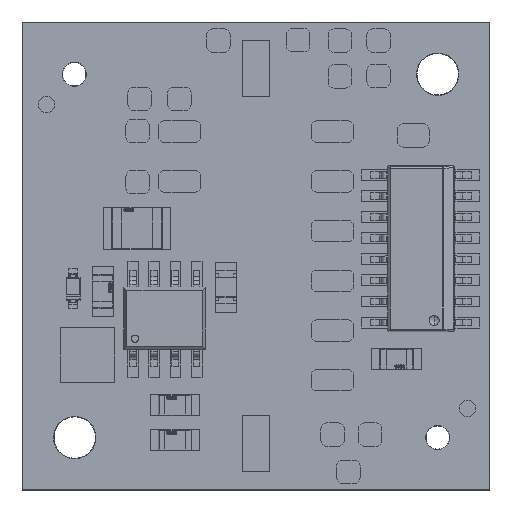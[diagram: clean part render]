
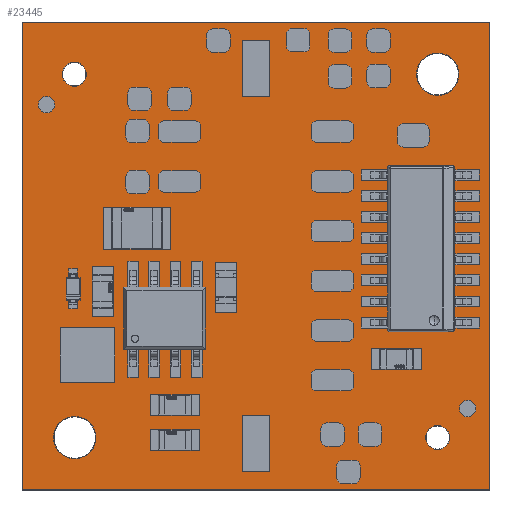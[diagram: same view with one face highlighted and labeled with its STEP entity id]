
A CAD part, top view. The second image highlights one B-rep face of the part: STEP entity #23445.
In plain terms, the highlighted planar face has unit normal (0, 0, 1).
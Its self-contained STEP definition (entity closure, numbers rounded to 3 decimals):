
#212 = CARTESIAN_POINT ( 'NONE',  ( -17.15, -18.9, -0.035 ) ) ;
#542 = DIRECTION ( 'NONE',  ( -1., 0., 0. ) ) ;
#800 = DIRECTION ( 'NONE',  ( 0., 0., 1. ) ) ;
#1283 = CIRCLE ( 'NONE', #120736, 0.7 ) ;
#1812 = ORIENTED_EDGE ( 'NONE', *, *, #23322, .F. ) ;
#4898 = CIRCLE ( 'NONE', #128750, 0.7 ) ;
#7318 = VECTOR ( 'NONE', #13864, 1000. ) ;
#8058 = EDGE_CURVE ( 'NONE', #126413, #99872, #39768, .T. ) ;
#9564 = EDGE_CURVE ( 'NONE', #56489, #25338, #1283, .T. ) ;
#10687 = AXIS2_PLACEMENT_3D ( 'NONE', #45654, #88685, #143337 ) ;
#10869 = DIRECTION ( 'NONE',  ( 1., 0., 0. ) ) ;
#10957 = ORIENTED_EDGE ( 'NONE', *, *, #30989, .F. ) ;
#11121 = CARTESIAN_POINT ( 'NONE',  ( -10.922, -10.942, -0.035 ) ) ;
#12557 = DIRECTION ( 'NONE',  ( 0., 0., 1. ) ) ;
#13864 = DIRECTION ( 'NONE',  ( 0., -1., 0. ) ) ;
#14793 = VERTEX_POINT ( 'NONE', #53101 ) ;
#17605 = ORIENTED_EDGE ( 'NONE', *, *, #117866, .F. ) ;
#18101 = DIRECTION ( 'NONE',  ( 0., 1., 0. ) ) ;
#19159 = VERTEX_POINT ( 'NONE', #143407 ) ;
#21432 = DIRECTION ( 'NONE',  ( -1., 0., 0. ) ) ;
#23322 = EDGE_CURVE ( 'NONE', #73507, #87204, #127516, .T. ) ;
#23389 = EDGE_LOOP ( 'NONE', ( #94567, #10957 ) ) ;
#23445 = ADVANCED_FACE ( 'NONE', ( #113667, #58305, #110218, #51351, #94647 ), #66938, .F. ) ;
#24362 = AXIS2_PLACEMENT_3D ( 'NONE', #212, #100763, #21432 ) ;
#25324 = CIRCLE ( 'NONE', #59257, 1.25 ) ;
#25338 = VERTEX_POINT ( 'NONE', #142931 ) ;
#27344 = ORIENTED_EDGE ( 'NONE', *, *, #121868, .T. ) ;
#27898 = CIRCLE ( 'NONE', #90052, 0.7 ) ;
#29272 = CARTESIAN_POINT ( 'NONE',  ( 10.947, -10.942, -0.035 ) ) ;
#30989 = EDGE_CURVE ( 'NONE', #14793, #19159, #112385, .T. ) ;
#32521 = DIRECTION ( 'NONE',  ( -1., 0., 0. ) ) ;
#33783 = CARTESIAN_POINT ( 'NONE',  ( 10.247, -10.942, -0.035 ) ) ;
#39768 = LINE ( 'NONE', #136706, #114198 ) ;
#43586 = VERTEX_POINT ( 'NONE', #118851 ) ;
#45142 = AXIS2_PLACEMENT_3D ( 'NONE', #112249, #12557, #79367 ) ;
#45654 = CARTESIAN_POINT ( 'NONE',  ( 10.947, 10.952, -0.035 ) ) ;
#47085 = ORIENTED_EDGE ( 'NONE', *, *, #71960, .F. ) ;
#48042 = CARTESIAN_POINT ( 'NONE',  ( 10.947, 10.952, -0.035 ) ) ;
#51351 = FACE_BOUND ( 'NONE', #97865, .T. ) ;
#51526 = DIRECTION ( 'NONE',  ( -1., 0., 0. ) ) ;
#51719 = EDGE_CURVE ( 'NONE', #43586, #131895, #61090, .T. ) ;
#53101 = CARTESIAN_POINT ( 'NONE',  ( -12.172, -10.942, -0.035 ) ) ;
#54902 = AXIS2_PLACEMENT_3D ( 'NONE', #88299, #800, #100392 ) ;
#55246 = DIRECTION ( 'NONE',  ( 0., 0., 1. ) ) ;
#56489 = VERTEX_POINT ( 'NONE', #33783 ) ;
#58305 = FACE_BOUND ( 'NONE', #111757, .T. ) ;
#59257 = AXIS2_PLACEMENT_3D ( 'NONE', #48042, #69825, #70318 ) ;
#61090 = CIRCLE ( 'NONE', #10687, 1.25 ) ;
#66938 = PLANE ( 'NONE',  #24362 ) ;
#67498 = CARTESIAN_POINT ( 'NONE',  ( 14.1, -14.1, -0.035 ) ) ;
#67965 = ORIENTED_EDGE ( 'NONE', *, *, #51719, .F. ) ;
#69825 = DIRECTION ( 'NONE',  ( 0., 0., 1. ) ) ;
#70069 = CIRCLE ( 'NONE', #141812, 1.25 ) ;
#70318 = DIRECTION ( 'NONE',  ( -1., 0., 0. ) ) ;
#71960 = EDGE_CURVE ( 'NONE', #131895, #43586, #25324, .T. ) ;
#72195 = CARTESIAN_POINT ( 'NONE',  ( -10.947, 10.952, -0.035 ) ) ;
#72512 = EDGE_LOOP ( 'NONE', ( #27344, #73904, #83870, #76229 ) ) ;
#73507 = VERTEX_POINT ( 'NONE', #134000 ) ;
#73904 = ORIENTED_EDGE ( 'NONE', *, *, #140491, .T. ) ;
#74040 = EDGE_CURVE ( 'NONE', #19159, #14793, #70069, .T. ) ;
#74250 = VERTEX_POINT ( 'NONE', #126654 ) ;
#75235 = DIRECTION ( 'NONE',  ( 0., 0., 1. ) ) ;
#76229 = ORIENTED_EDGE ( 'NONE', *, *, #8058, .T. ) ;
#79367 = DIRECTION ( 'NONE',  ( -1., 0., 0. ) ) ;
#80186 = CARTESIAN_POINT ( 'NONE',  ( -14.1, -14.1, -0.035 ) ) ;
#83759 = DIRECTION ( 'NONE',  ( 0., 0., 1. ) ) ;
#83870 = ORIENTED_EDGE ( 'NONE', *, *, #130086, .T. ) ;
#87204 = VERTEX_POINT ( 'NONE', #95887 ) ;
#88299 = CARTESIAN_POINT ( 'NONE',  ( -10.947, 10.952, -0.035 ) ) ;
#88685 = DIRECTION ( 'NONE',  ( 0., 0., 1. ) ) ;
#90052 = AXIS2_PLACEMENT_3D ( 'NONE', #29272, #75235, #51526 ) ;
#91882 = EDGE_LOOP ( 'NONE', ( #118838, #129058 ) ) ;
#92204 = LINE ( 'NONE', #67498, #130186 ) ;
#94567 = ORIENTED_EDGE ( 'NONE', *, *, #74040, .F. ) ;
#94647 = FACE_BOUND ( 'NONE', #23389, .T. ) ;
#95887 = CARTESIAN_POINT ( 'NONE',  ( -10.247, 10.952, -0.035 ) ) ;
#97865 = EDGE_LOOP ( 'NONE', ( #17605, #1812 ) ) ;
#98781 = CARTESIAN_POINT ( 'NONE',  ( 10.947, -10.942, -0.035 ) ) ;
#99872 = VERTEX_POINT ( 'NONE', #120252 ) ;
#100392 = DIRECTION ( 'NONE',  ( -1., 0., 0. ) ) ;
#100763 = DIRECTION ( 'NONE',  ( 0., 0., -1. ) ) ;
#105708 = VERTEX_POINT ( 'NONE', #111437 ) ;
#106061 = LINE ( 'NONE', #106177, #125061 ) ;
#106177 = CARTESIAN_POINT ( 'NONE',  ( 14.1, 14.1, -0.035 ) ) ;
#108875 = DIRECTION ( 'NONE',  ( 0., 0., 1. ) ) ;
#110218 = FACE_BOUND ( 'NONE', #91882, .T. ) ;
#111437 = CARTESIAN_POINT ( 'NONE',  ( 14.1, -14.1, -0.035 ) ) ;
#111757 = EDGE_LOOP ( 'NONE', ( #47085, #67965 ) ) ;
#112249 = CARTESIAN_POINT ( 'NONE',  ( -10.922, -10.942, -0.035 ) ) ;
#112385 = CIRCLE ( 'NONE', #45142, 1.25 ) ;
#113667 = FACE_OUTER_BOUND ( 'NONE', #72512, .T. ) ;
#114198 = VECTOR ( 'NONE', #136216, 1000. ) ;
#116877 = CARTESIAN_POINT ( 'NONE',  ( 14.1, 14.1, -0.035 ) ) ;
#117866 = EDGE_CURVE ( 'NONE', #87204, #73507, #4898, .T. ) ;
#118838 = ORIENTED_EDGE ( 'NONE', *, *, #131347, .F. ) ;
#118851 = CARTESIAN_POINT ( 'NONE',  ( 9.697, 10.952, -0.035 ) ) ;
#120252 = CARTESIAN_POINT ( 'NONE',  ( -14.1, 14.1, -0.035 ) ) ;
#120736 = AXIS2_PLACEMENT_3D ( 'NONE', #98781, #55246, #32521 ) ;
#121868 = EDGE_CURVE ( 'NONE', #99872, #74250, #140657, .T. ) ;
#125061 = VECTOR ( 'NONE', #18101, 1000. ) ;
#126413 = VERTEX_POINT ( 'NONE', #116877 ) ;
#126654 = CARTESIAN_POINT ( 'NONE',  ( -14.1, -14.1, -0.035 ) ) ;
#127516 = CIRCLE ( 'NONE', #54902, 0.7 ) ;
#128750 = AXIS2_PLACEMENT_3D ( 'NONE', #72195, #83759, #138843 ) ;
#129058 = ORIENTED_EDGE ( 'NONE', *, *, #9564, .F. ) ;
#130086 = EDGE_CURVE ( 'NONE', #105708, #126413, #106061, .T. ) ;
#130186 = VECTOR ( 'NONE', #10869, 1000. ) ;
#131347 = EDGE_CURVE ( 'NONE', #25338, #56489, #27898, .T. ) ;
#131895 = VERTEX_POINT ( 'NONE', #133544 ) ;
#133544 = CARTESIAN_POINT ( 'NONE',  ( 12.197, 10.952, -0.035 ) ) ;
#134000 = CARTESIAN_POINT ( 'NONE',  ( -11.647, 10.952, -0.035 ) ) ;
#136216 = DIRECTION ( 'NONE',  ( -1., 0., 0. ) ) ;
#136706 = CARTESIAN_POINT ( 'NONE',  ( -17.15, 14.1, -0.035 ) ) ;
#138843 = DIRECTION ( 'NONE',  ( -1., 0., 0. ) ) ;
#140491 = EDGE_CURVE ( 'NONE', #74250, #105708, #92204, .T. ) ;
#140657 = LINE ( 'NONE', #80186, #7318 ) ;
#141812 = AXIS2_PLACEMENT_3D ( 'NONE', #11121, #108875, #542 ) ;
#142931 = CARTESIAN_POINT ( 'NONE',  ( 11.647, -10.942, -0.035 ) ) ;
#143337 = DIRECTION ( 'NONE',  ( -1., 0., 0. ) ) ;
#143407 = CARTESIAN_POINT ( 'NONE',  ( -9.672, -10.942, -0.035 ) ) ;
